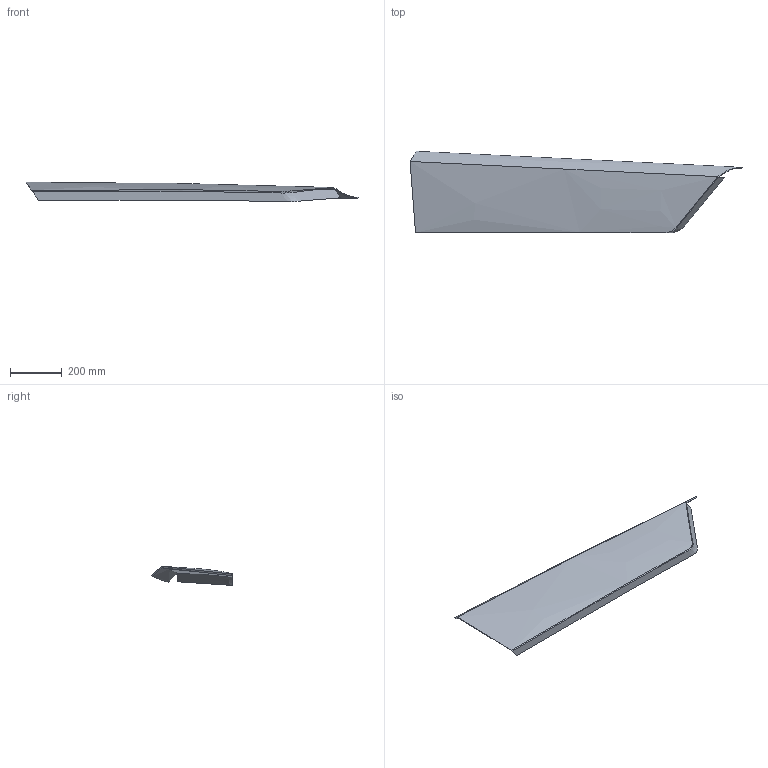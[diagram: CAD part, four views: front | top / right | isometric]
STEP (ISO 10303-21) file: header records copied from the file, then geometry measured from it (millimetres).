
FILE_DESCRIPTION(/* description */ (''),/* implementation_level */ '2;1');
FILE_NAME(/* name */ 'roof_cover_right',/* time_stamp */ '2018-02-20T19:09:33+01:00',/* author */ (''),/* organization */ (''),/* preprocessor_version */ 'ST-DEVELOPER v14',/* originating_system */ '',/* authorisation */ '');
FILE_SCHEMA (('CONFIG_CONTROL_DESIGN'));
Length unit declared in the file: millimetre
Products named in the file (1): Document
Bounding box: 1289.5 x 315.89 x 75.44 mm (x, y, z)
Surface area: 729340.1 mm2 (no closed solid volume)
Topology: 0 solids, 1 shells, 8 faces, 22 edges, 14 vertices
Faces by surface type: bspline 8
Entity records: 9815 total; most frequent: CARTESIAN_POINT 9601, ORIENTED_EDGE 32, EDGE_CURVE 22, B_SPLINE_CURVE_WITH_KNOTS 22, VERTEX_POINT 14, ADVANCED_FACE 8, FACE_OUTER_BOUND 8, EDGE_LOOP 8
